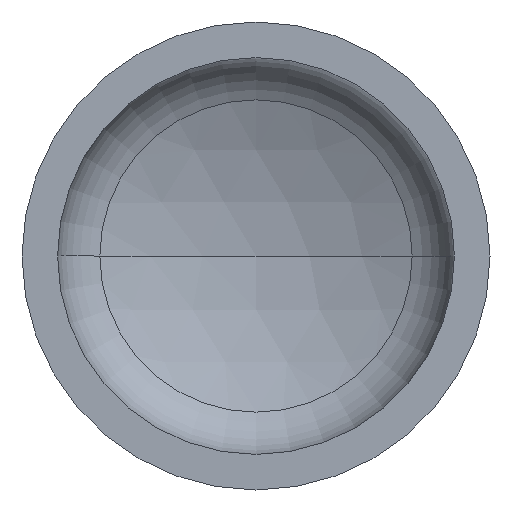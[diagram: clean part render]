
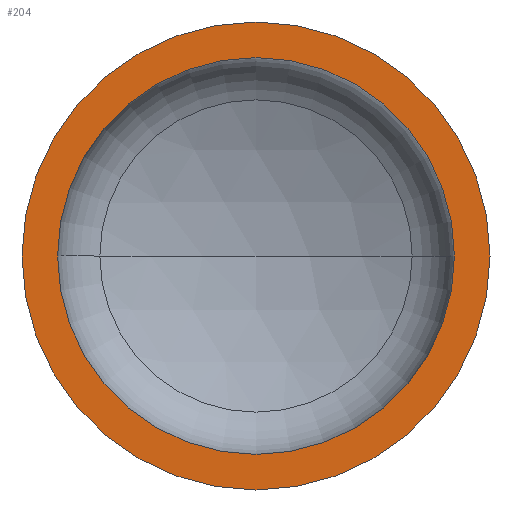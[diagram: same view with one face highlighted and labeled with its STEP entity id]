
A CAD part, front view. The second image highlights one B-rep face of the part: STEP entity #204.
In plain terms, the highlighted planar face has unit normal (0, -1, 0).
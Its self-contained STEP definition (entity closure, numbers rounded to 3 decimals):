
#6 = EDGE_LOOP ( 'NONE', ( #10, #50 ) ) ;
#10 = ORIENTED_EDGE ( 'NONE', *, *, #393, .T. ) ;
#15 = AXIS2_PLACEMENT_3D ( 'NONE', #281, #330, #406 ) ;
#18 = VERTEX_POINT ( 'NONE', #296 ) ;
#44 = AXIS2_PLACEMENT_3D ( 'NONE', #300, #248, #190 ) ;
#50 = ORIENTED_EDGE ( 'NONE', *, *, #125, .T. ) ;
#56 = EDGE_LOOP ( 'NONE', ( #72, #117 ) ) ;
#60 = VERTEX_POINT ( 'NONE', #370 ) ;
#65 = CIRCLE ( 'NONE', #92, 424. ) ;
#72 = ORIENTED_EDGE ( 'NONE', *, *, #128, .F. ) ;
#92 = AXIS2_PLACEMENT_3D ( 'NONE', #208, #371, #378 ) ;
#96 = AXIS2_PLACEMENT_3D ( 'NONE', #348, #346, #355 ) ;
#114 = VERTEX_POINT ( 'NONE', #247 ) ;
#117 = ORIENTED_EDGE ( 'NONE', *, *, #369, .F. ) ;
#125 = EDGE_CURVE ( 'NONE', #60, #18, #205, .T. ) ;
#128 = EDGE_CURVE ( 'NONE', #114, #216, #65, .T. ) ;
#177 = AXIS2_PLACEMENT_3D ( 'NONE', #186, #357, #218 ) ;
#186 = CARTESIAN_POINT ( 'NONE',  ( 0., 0., 0. ) ) ;
#190 = DIRECTION ( 'NONE',  ( -1., 0., 0. ) ) ;
#204 = ADVANCED_FACE ( 'NONE', ( #299, #358 ), #292, .F. ) ;
#205 = CIRCLE ( 'NONE', #96, 500. ) ;
#208 = CARTESIAN_POINT ( 'NONE',  ( 0., 0., 0. ) ) ;
#216 = VERTEX_POINT ( 'NONE', #290 ) ;
#218 = DIRECTION ( 'NONE',  ( 1., 0., 0. ) ) ;
#247 = CARTESIAN_POINT ( 'NONE',  ( 424., 0., 0. ) ) ;
#248 = DIRECTION ( 'NONE',  ( 0., 1., 0. ) ) ;
#281 = CARTESIAN_POINT ( 'NONE',  ( 0., 0., 0. ) ) ;
#290 = CARTESIAN_POINT ( 'NONE',  ( -424., 0., 0. ) ) ;
#292 = PLANE ( 'NONE',  #44 ) ;
#296 = CARTESIAN_POINT ( 'NONE',  ( 500., 0., 0. ) ) ;
#299 = FACE_BOUND ( 'NONE', #56, .T. ) ;
#300 = CARTESIAN_POINT ( 'NONE',  ( -500., 0., 0. ) ) ;
#330 = DIRECTION ( 'NONE',  ( 0., -1., 0. ) ) ;
#346 = DIRECTION ( 'NONE',  ( 0., -1., 0. ) ) ;
#348 = CARTESIAN_POINT ( 'NONE',  ( 0., 0., 0. ) ) ;
#355 = DIRECTION ( 'NONE',  ( 1., 0., 0. ) ) ;
#357 = DIRECTION ( 'NONE',  ( 0., -1., 0. ) ) ;
#358 = FACE_OUTER_BOUND ( 'NONE', #6, .T. ) ;
#369 = EDGE_CURVE ( 'NONE', #216, #114, #386, .T. ) ;
#370 = CARTESIAN_POINT ( 'NONE',  ( -500., 0., 0. ) ) ;
#371 = DIRECTION ( 'NONE',  ( 0., -1., 0. ) ) ;
#378 = DIRECTION ( 'NONE',  ( 1., 0., 0. ) ) ;
#380 = CIRCLE ( 'NONE', #177, 500. ) ;
#386 = CIRCLE ( 'NONE', #15, 424. ) ;
#393 = EDGE_CURVE ( 'NONE', #18, #60, #380, .T. ) ;
#406 = DIRECTION ( 'NONE',  ( 1., 0., 0. ) ) ;
